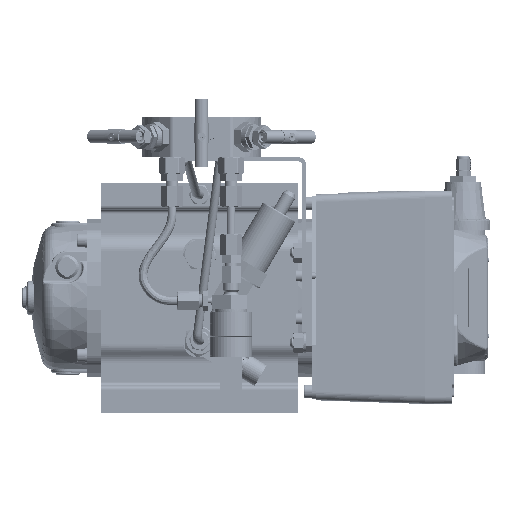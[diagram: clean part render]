
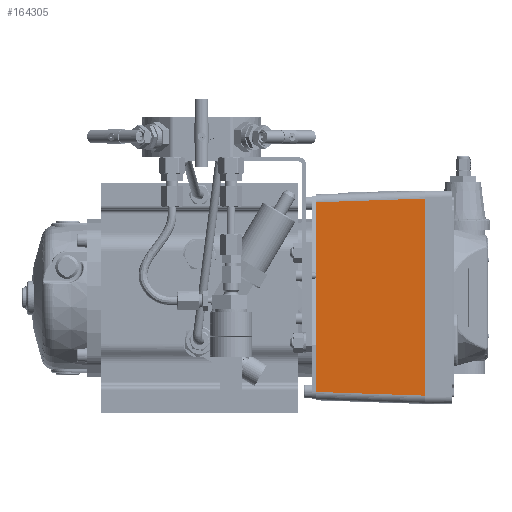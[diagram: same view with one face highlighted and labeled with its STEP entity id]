
A CAD part, top view. The second image highlights one B-rep face of the part: STEP entity #164305.
In plain terms, the highlighted planar face has unit normal (-0.034, 0, 0.999).
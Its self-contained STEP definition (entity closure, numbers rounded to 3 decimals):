
#164305=ADVANCED_FACE('',(#232983),#232985,.T.);
#232983=FACE_BOUND('',#232984,.T.);
#232984=EDGE_LOOP('',(#262008,#262009,#262010,#262011));
#232985=PLANE('',#232986);
#232986=AXIS2_PLACEMENT_3D('',#232987,#232988,#232989);
#232987=CARTESIAN_POINT('',(86.5,76.5,329.25));
#232988=DIRECTION('',(-0.034,0.,0.999));
#232989=DIRECTION('',(0.,-1.,0.));
#262008=ORIENTED_EDGE('',*,*,#309045,.F.);
#262009=ORIENTED_EDGE('',*,*,#308977,.T.);
#262010=ORIENTED_EDGE('',*,*,#309046,.T.);
#262011=ORIENTED_EDGE('',*,*,#308939,.F.);
#308939=EDGE_CURVE('',#455799,#455801,#455802,.T.);
#308977=EDGE_CURVE('',#455875,#455873,#455876,.T.);
#309045=EDGE_CURVE('',#455875,#455799,#455989,.T.);
#309046=EDGE_CURVE('',#455873,#455801,#455990,.T.);
#455799=VERTEX_POINT('',#460202);
#455801=VERTEX_POINT('',#460207);
#455802=LINE('',#460208,#460209);
#455873=VERTEX_POINT('',#460374);
#455875=VERTEX_POINT('',#460379);
#455876=LINE('',#460380,#460381);
#455989=LINE('',#461232,#461233);
#455990=LINE('',#461235,#461236);
#460202=CARTESIAN_POINT('',(167.5,73.253,332.));
#460207=CARTESIAN_POINT('',(167.5,-73.253,332.));
#460208=CARTESIAN_POINT('',(167.5,73.253,332.));
#460209=VECTOR('',#460210,1.);
#460210=DIRECTION('',(0.,-1.,0.));
#460374=CARTESIAN_POINT('',(86.5,-70.503,329.25));
#460379=CARTESIAN_POINT('',(86.5,70.503,329.25));
#460380=CARTESIAN_POINT('',(86.5,70.503,329.25));
#460381=VECTOR('',#460382,1.);
#460382=DIRECTION('',(0.,-1.,0.));
#461232=CARTESIAN_POINT('',(86.5,70.503,329.25));
#461233=VECTOR('',#461234,1.);
#461234=DIRECTION('',(0.999,0.034,0.034));
#461235=CARTESIAN_POINT('',(86.5,-70.503,329.25));
#461236=VECTOR('',#461237,1.);
#461237=DIRECTION('',(0.999,-0.034,0.034));
